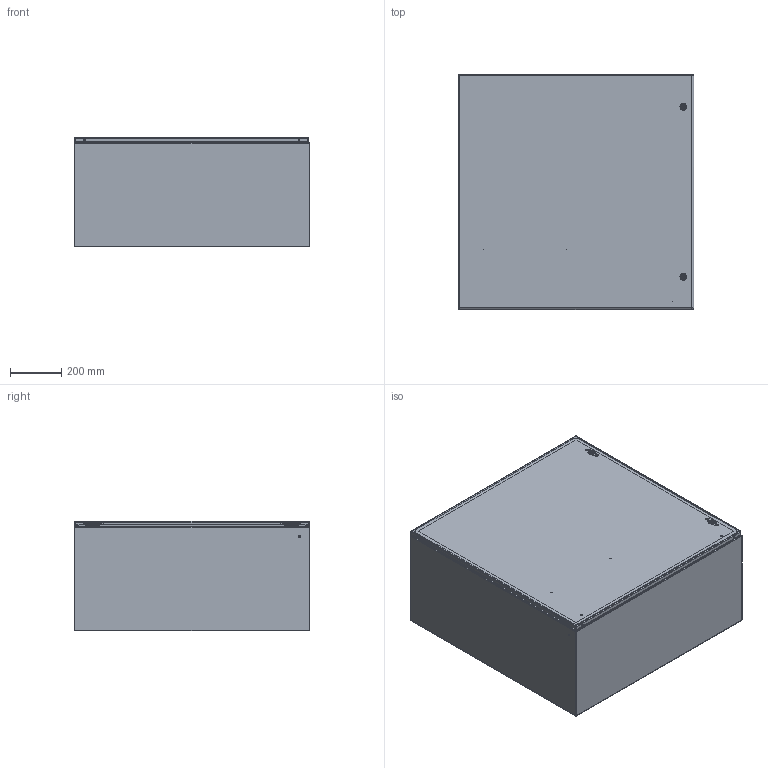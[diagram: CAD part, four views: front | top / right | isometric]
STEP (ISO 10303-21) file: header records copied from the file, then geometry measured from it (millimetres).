
FILE_DESCRIPTION (( 'STEP AP203' ), '1' );
FILE_NAME ('29417.step', '2015-03-30T06:23:14', ( '' ), ( '' ), 'SwSTEP 2.0', 'SolidWorks 2010', '' );
FILE_SCHEMA (( 'CONFIG_CONTROL_DESIGN' ));
Length unit declared in the file: inch
Products named in the file (28): 29417; 89116700; 89116699_default; 89116698_default; 89116697_default; 23271001_After Weld; 87937947_assy; 87937987_weldment; 87936146; 99401225; 87931362_87931362; 51123001_Post weld; 64101001; 64201001; 87541994_Installed Height; 87541995; 64202001; 64210001; 64203001; 87938011; 87555298; 87543027; 89076399; 89076193; 89056623; 87929507; 87929767; 87929769_Installed on Pin
Assembly tree (40 placements, depth 4):
  29417
    89116700
      23271001_After Weld  x8
      89116698_default
      89116697_default
      89116699_default
      99401225
    87543027  x2
    87929507  x2
      87929769_Installed on Pin
      87929767
    89076399  x2
      89076193
      89056623
    87937947_assy
      87555298
      87937987_weldment
        99401225
        51123001_Post weld
        87936146
        87931362_87931362  x2
      87938011
      64101001  x2
        64202001
        87541994_Installed Height
        64201001
        64203001
        87541995
        64210001
Bounding box: 914.4 x 914.4 x 427.1 mm (x, y, z)
Volume: 6320649 mm3; surface area: 6797541 mm2
Topology: 43 solids, 43 shells, 1653 faces, 4029 edges, 2491 vertices
Faces by surface type: plane 652, cylinder 550, bspline 216, torus 140, cone 86, sphere 9
Entity records: 35507 total; most frequent: CARTESIAN_POINT 9868, ORIENTED_EDGE 4688, DIRECTION 4564, EDGE_CURVE 2344, AXIS2_PLACEMENT_3D 1651, VERTEX_POINT 1453, LINE 1262, VECTOR 1262
